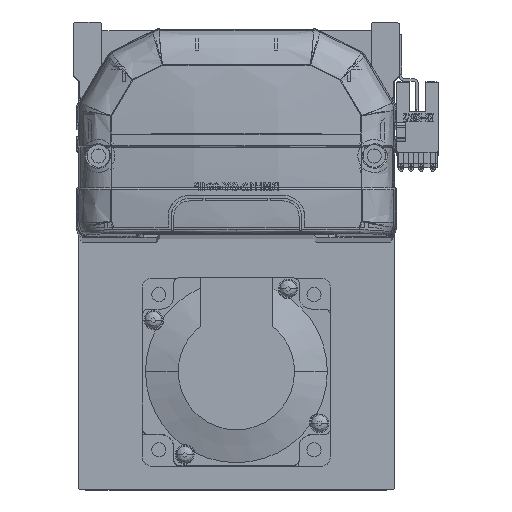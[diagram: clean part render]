
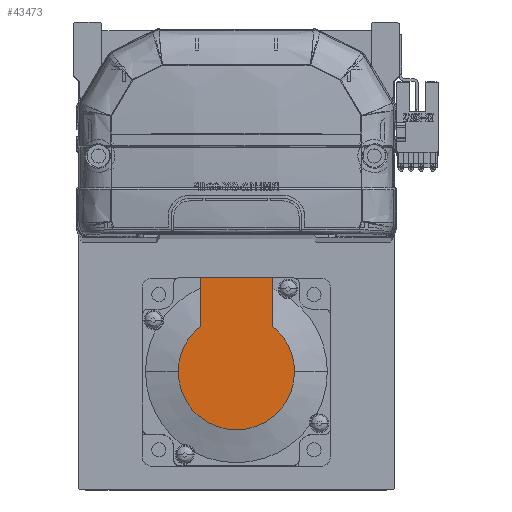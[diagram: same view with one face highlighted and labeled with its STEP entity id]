
A CAD part, top view. The second image highlights one B-rep face of the part: STEP entity #43473.
In plain terms, the highlighted planar face has unit normal (0, 0, 1) as drawn and (-1, 0, 0) by its records, which use the part's own axes.
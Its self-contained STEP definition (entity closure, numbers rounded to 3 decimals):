
#964 = AXIS2_PLACEMENT_3D ( 'NONE', #40173, #7008, #39386 ) ;
#1004 = VERTEX_POINT ( 'NONE', #50466 ) ;
#2234 = VERTEX_POINT ( 'NONE', #52207 ) ;
#2335 = PLANE ( 'NONE',  #964 ) ;
#3627 = LINE ( 'NONE', #55394, #40087 ) ;
#4910 = ORIENTED_EDGE ( 'NONE', *, *, #59155, .T. ) ;
#6923 = VECTOR ( 'NONE', #21847, 1000. ) ;
#7008 = DIRECTION ( 'NONE',  ( -1., 0., 0. ) ) ;
#7506 = EDGE_LOOP ( 'NONE', ( #4910, #19038, #49916, #32912, #19832, #17916 ) ) ;
#7539 = VERTEX_POINT ( 'NONE', #51617 ) ;
#9307 = FACE_OUTER_BOUND ( 'NONE', #7506, .T. ) ;
#10263 = DIRECTION ( 'NONE',  ( -1., 0., 0. ) ) ;
#10817 = AXIS2_PLACEMENT_3D ( 'NONE', #42991, #14929, #52213 ) ;
#13081 = CARTESIAN_POINT ( 'NONE',  ( -79., 0., -18.538 ) ) ;
#13989 = CARTESIAN_POINT ( 'NONE',  ( -79., 30., 27. ) ) ;
#14929 = DIRECTION ( 'NONE',  ( -1., 0., 0. ) ) ;
#17916 = ORIENTED_EDGE ( 'NONE', *, *, #25081, .F. ) ;
#19038 = ORIENTED_EDGE ( 'NONE', *, *, #35772, .T. ) ;
#19089 = CIRCLE ( 'NONE', #10817, 18.538 ) ;
#19215 = CARTESIAN_POINT ( 'NONE',  ( -79., 0., 0. ) ) ;
#19601 = DIRECTION ( 'NONE',  ( 0., 0., -1. ) ) ;
#19832 = ORIENTED_EDGE ( 'NONE', *, *, #56231, .F. ) ;
#21847 = DIRECTION ( 'NONE',  ( 0., -1., 0. ) ) ;
#23680 = VECTOR ( 'NONE', #37615, 1000. ) ;
#25081 = EDGE_CURVE ( 'NONE', #1004, #31474, #32404, .T. ) ;
#26140 = CARTESIAN_POINT ( 'NONE',  ( -79., 0., 11.45 ) ) ;
#27795 = CARTESIAN_POINT ( 'NONE',  ( -79., 0., 0. ) ) ;
#30453 = CARTESIAN_POINT ( 'NONE',  ( -79., 14.579, 11.45 ) ) ;
#31474 = VERTEX_POINT ( 'NONE', #36586 ) ;
#32404 = LINE ( 'NONE', #13989, #23680 ) ;
#32912 = ORIENTED_EDGE ( 'NONE', *, *, #57929, .T. ) ;
#34473 = CIRCLE ( 'NONE', #55469, 18.538 ) ;
#35772 = EDGE_CURVE ( 'NONE', #7539, #45449, #55285, .T. ) ;
#35979 = VERTEX_POINT ( 'NONE', #30453 ) ;
#36586 = CARTESIAN_POINT ( 'NONE',  ( -79., 30., 11.45 ) ) ;
#37615 = DIRECTION ( 'NONE',  ( 0., 0., 1. ) ) ;
#38372 = DIRECTION ( 'NONE',  ( 0., 0., -1. ) ) ;
#38529 = AXIS2_PLACEMENT_3D ( 'NONE', #27795, #60418, #38372 ) ;
#39386 = DIRECTION ( 'NONE',  ( 0., 0., 1. ) ) ;
#40087 = VECTOR ( 'NONE', #50947, 1000. ) ;
#40173 = CARTESIAN_POINT ( 'NONE',  ( -79., -9.269, 0. ) ) ;
#42991 = CARTESIAN_POINT ( 'NONE',  ( -79., 0., 0. ) ) ;
#43473 = ADVANCED_FACE ( 'NONE', ( #9307 ), #2335, .T. ) ;
#45449 = VERTEX_POINT ( 'NONE', #13081 ) ;
#49916 = ORIENTED_EDGE ( 'NONE', *, *, #50851, .T. ) ;
#50466 = CARTESIAN_POINT ( 'NONE',  ( -79., 30., -11.45 ) ) ;
#50851 = EDGE_CURVE ( 'NONE', #45449, #2234, #34473, .T. ) ;
#50947 = DIRECTION ( 'NONE',  ( 0., -1., 0. ) ) ;
#51617 = CARTESIAN_POINT ( 'NONE',  ( -79., 14.579, -11.45 ) ) ;
#52207 = CARTESIAN_POINT ( 'NONE',  ( -79., 0., 18.538 ) ) ;
#52213 = DIRECTION ( 'NONE',  ( 0., 0., -1. ) ) ;
#55285 = CIRCLE ( 'NONE', #38529, 18.538 ) ;
#55394 = CARTESIAN_POINT ( 'NONE',  ( -79., -9.269, -11.45 ) ) ;
#55469 = AXIS2_PLACEMENT_3D ( 'NONE', #19215, #10263, #19601 ) ;
#56231 = EDGE_CURVE ( 'NONE', #31474, #35979, #56552, .T. ) ;
#56552 = LINE ( 'NONE', #26140, #6923 ) ;
#57929 = EDGE_CURVE ( 'NONE', #2234, #35979, #19089, .T. ) ;
#59155 = EDGE_CURVE ( 'NONE', #1004, #7539, #3627, .T. ) ;
#60418 = DIRECTION ( 'NONE',  ( -1., 0., 0. ) ) ;
